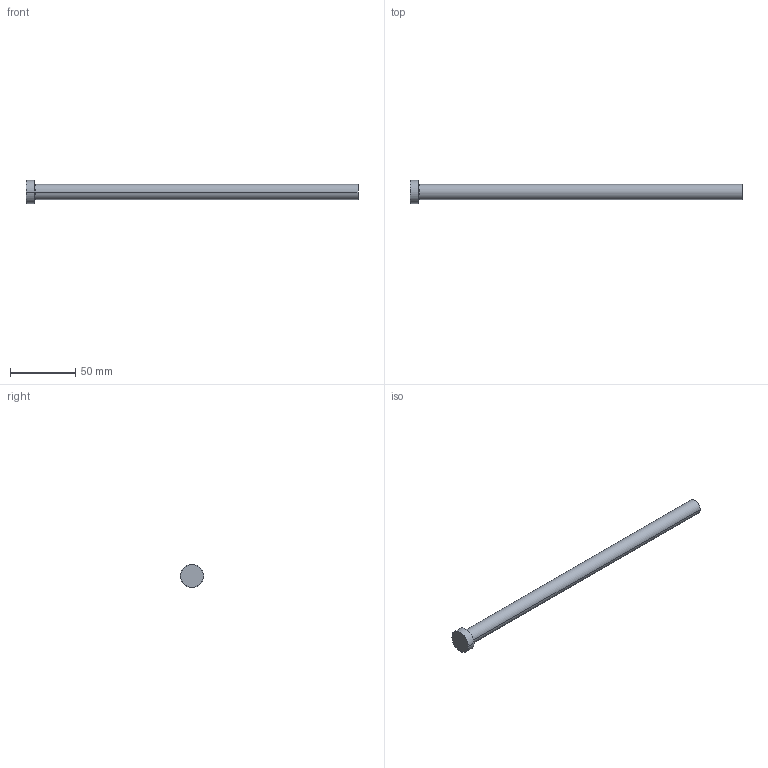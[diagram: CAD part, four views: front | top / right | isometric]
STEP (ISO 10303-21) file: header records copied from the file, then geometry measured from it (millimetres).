
FILE_DESCRIPTION (( 'STEP AP214' ), '1' );
FILE_NAME ('P30-10.STEP', '2020-03-12T10:31:36', ( '' ), ( '' ), 'SwSTEP 2.0', 'SolidWorks 2018', '' );
FILE_SCHEMA (( 'AUTOMOTIVE_DESIGN' ));
Length unit declared in the file: inch
Products named in the file (1): P30-10
Bounding box: 254 x 17.86 x 17.86 mm (x, y, z)
Volume: 27325.8 mm3; surface area: 9787.6 mm2
Topology: 1 solids, 1 shells, 13 faces, 24 edges, 14 vertices
Faces by surface type: cone 4, cylinder 4, plane 3, torus 2
Entity records: 366 total; most frequent: DIRECTION 68, CARTESIAN_POINT 52, ORIENTED_EDGE 48, AXIS2_PLACEMENT_3D 30, EDGE_CURVE 24, CIRCLE 16, EDGE_LOOP 14, VERTEX_POINT 14
